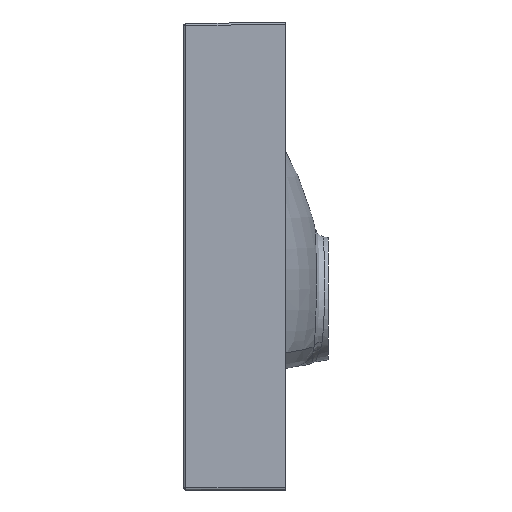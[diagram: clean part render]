
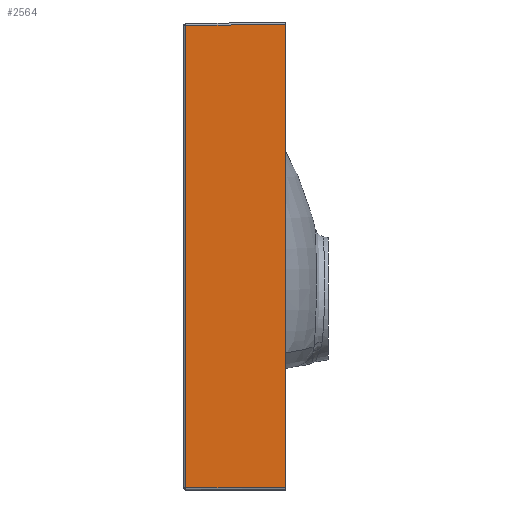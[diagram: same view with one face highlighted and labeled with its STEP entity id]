
A CAD part, left-side view. The second image highlights one B-rep face of the part: STEP entity #2564.
In plain terms, the highlighted planar face has unit normal (-1, 0.018, 0).
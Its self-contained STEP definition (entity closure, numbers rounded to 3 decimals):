
#42=PLANE('',#2762);
#333=FACE_OUTER_BOUND('',#497,.T.);
#497=EDGE_LOOP('',(#1809,#1810,#1811,#1812));
#689=LINE('',#16217,#812);
#690=LINE('',#16219,#813);
#691=LINE('',#16221,#814);
#692=LINE('',#16222,#815);
#812=VECTOR('',#3080,1000.);
#813=VECTOR('',#3081,1000.);
#814=VECTOR('',#3082,1000.);
#815=VECTOR('',#3083,1000.);
#1123=VERTEX_POINT('',#16215);
#1124=VERTEX_POINT('',#16216);
#1125=VERTEX_POINT('',#16218);
#1126=VERTEX_POINT('',#16220);
#1385=EDGE_CURVE('',#1123,#1124,#689,.T.);
#1386=EDGE_CURVE('',#1124,#1125,#690,.T.);
#1387=EDGE_CURVE('',#1125,#1126,#691,.T.);
#1388=EDGE_CURVE('',#1126,#1123,#692,.T.);
#1809=ORIENTED_EDGE('',*,*,#1385,.T.);
#1810=ORIENTED_EDGE('',*,*,#1386,.T.);
#1811=ORIENTED_EDGE('',*,*,#1387,.T.);
#1812=ORIENTED_EDGE('',*,*,#1388,.T.);
#2564=ADVANCED_FACE('',(#333),#42,.T.);
#2762=AXIS2_PLACEMENT_3D('',#16214,#3078,#3079);
#3078=DIRECTION('center_axis',(-1.,0.017,0.));
#3079=DIRECTION('ref_axis',(-0.017,-1.,0.));
#3080=DIRECTION('',(0.017,1.,-0.017));
#3081=DIRECTION('',(0.,0.,-1.));
#3082=DIRECTION('',(-0.017,-1.,0.));
#3083=DIRECTION('',(0.,0.,1.));
#16214=CARTESIAN_POINT('Origin',(-300.,20.,-188.));
#16215=CARTESIAN_POINT('',(-300.,20.,270.));
#16216=CARTESIAN_POINT('',(-298.289,118.035,268.289));
#16217=CARTESIAN_POINT('',(-299.861,27.99,269.861));
#16218=CARTESIAN_POINT('',(-298.289,118.035,-186.));
#16219=CARTESIAN_POINT('',(-298.289,118.035,-188.));
#16220=CARTESIAN_POINT('',(-300.,20.,-186.));
#16221=CARTESIAN_POINT('',(-300.,20.,-186.));
#16222=CARTESIAN_POINT('',(-300.,20.,-188.));
